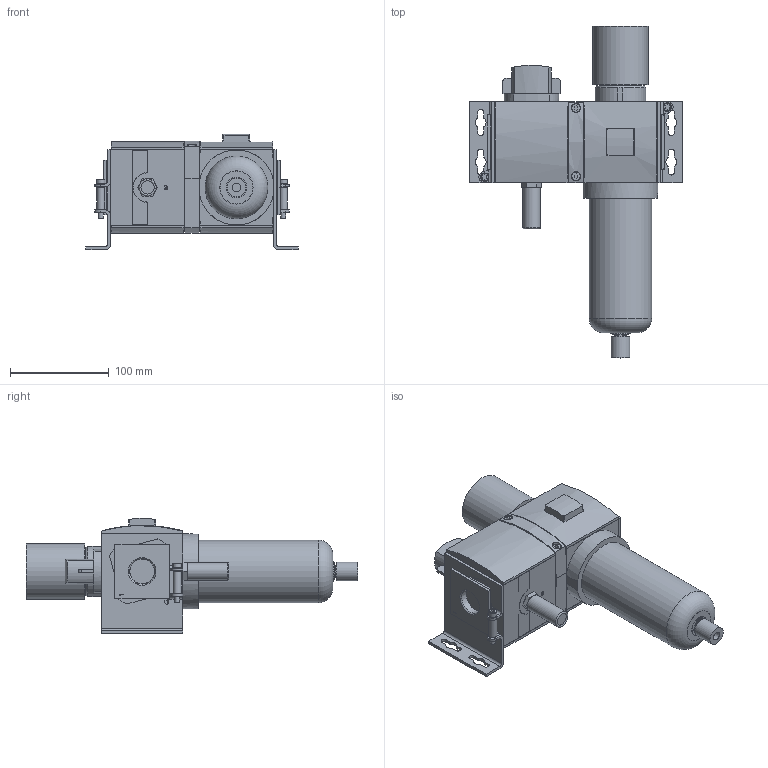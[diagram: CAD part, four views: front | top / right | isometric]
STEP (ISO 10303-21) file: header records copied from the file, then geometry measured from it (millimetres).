
FILE_DESCRIPTION( ( 'STEP AP214' ), '1' );
FILE_NAME( 'p:/temp/worker_235/temp/exporttempdir_6064_1430_Xsiwz/format_0/08452020-130258_gen_19511.stp', '2020-02-08T12:46:00', ( '' ), ( '' ), ' ', 'PARTsolutions', ' ' );
FILE_SCHEMA( ( 'AUTOMOTIVE_DESIGN { 1 0 10303 214 1 1 1 1 }' ) );
Length unit declared in the file: millimetre
Products named in the file (16): 08452020-130258_gen_19511; _440562-004-005-F(L); _439489-001-0; _437742 KNOB-100_653; _653-M3MN; _440561-004-005-F(L); _G653ASLA0A00A00_LS; _439488-011-F(L); _653-438047-009; _439489-002-H; _503493-001; _510722-001-STANDARD_653; _507439-006-P; _653-440512-002; _8653ASLB0L00A00_LS; _8653ASLB0L00A00_RS
Assembly tree (17 placements, depth 2):
  08452020-130258_gen_19511
    _440562-004-005-F(L)
    _439489-001-0  x3
    _437742 KNOB-100_653
    _653-M3MN
    _440561-004-005-F(L)
    _G653ASLA0A00A00_LS
    _439488-011-F(L)
    _653-438047-009
    _439489-002-H
    _503493-001
    _510722-001-STANDARD_653
    _507439-006-P
    _653-440512-002
    _8653ASLB0L00A00_LS
    _8653ASLB0L00A00_RS
Bounding box: 214.98 x 335.95 x 116.41 mm (x, y, z)
Volume: 1993237.7 mm3; surface area: 302516.2 mm2
Topology: 17 solids, 17 shells, 1048 faces, 2591 edges, 1662 vertices
Faces by surface type: plane 660, cylinder 292, cone 69, torus 23, sphere 4
Full cylindrical faces by diameter (mm): 1.7 x2, 2.8 x2, 5 x8, 5.85 x4, 6.3 x4, 8 x2, 8.5 x4, 8.6 x1, 10 x4, 10.4 x1, 10.8 x4, 12 x4, 12.309 x1, 12.985 x1, 15.1 x1, 16.105 x1, 17.3 x1, 19 x1, 21.6 x1, 29.5 x1, 33.5 x1, 43 x1, 51 x1, 55.99 x1, 63.5 x1
Entity records: 38776 total; most frequent: CARTESIAN_POINT 5644, DIRECTION 5235, ORIENTED_EDGE 4840, EDGE_CURVE 2420, AXIS2_PLACEMENT_3D 1821, VERTEX_POINT 1627, LINE 1593, VECTOR 1593
